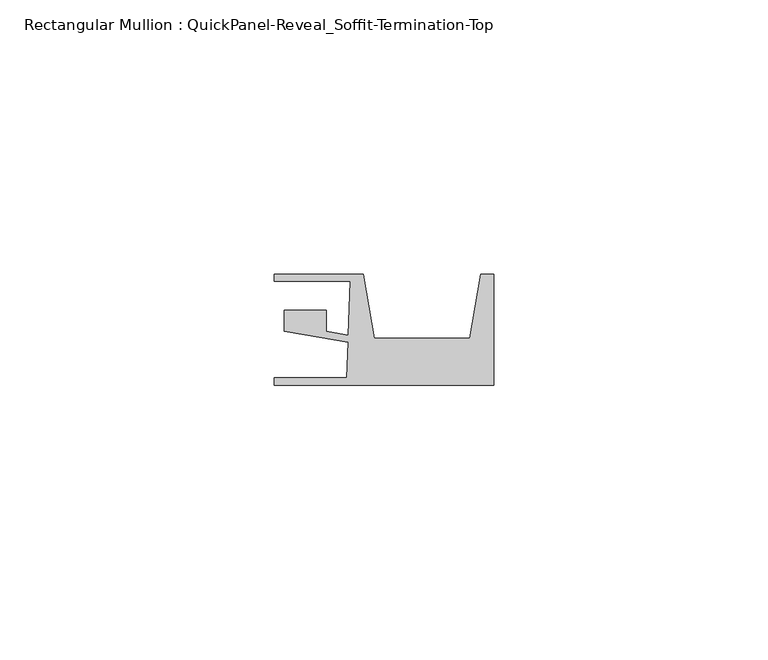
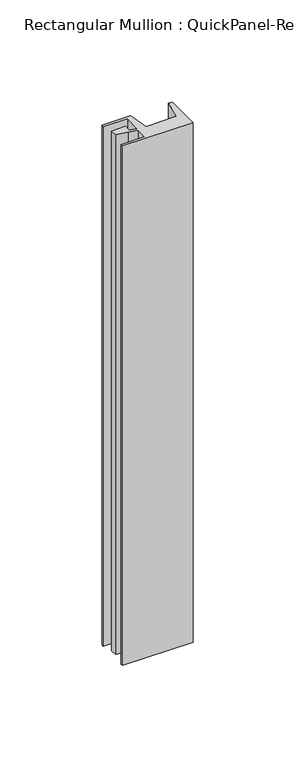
"""IFC4 building model written with IfcOpenShell, lengths in millimetres: member geometry, Rectangular Mullion : QuickPanel-Reveal_Soffit-Termination-Top."""

from ifc_helpers import new_model, si_unit, frame, origin, place, context, project, spatial, polyline, outline, extrude, source, transform, mapped, element, save


def rectangular_mullion_quickpanel_reveal_soffit_termination_top_86d96742(model_context):
    return source(origin(), model_context, "Body", "SweptSolid", [
        extrude(outline(polyline([(-40.0272216, -8.095605), (-40.0272216, -6.6935423), (-26.7863089, -6.6935423), (-26.5595237, -0.1992641), (-31.8098046, 0.7008023), (-38.2451373, 1.8040245), (-38.2451373, 5.6493034), (-30.5003642, 5.6493034), (-30.5003642, 1.7648465), (-26.5147952, 1.0815922), (-26.1708682, 10.9303752), (-40.0272216, 10.9303752), (-40.0272216, 12.1803727), (-23.8142192, 12.1803727), (-21.8189903, 0.5417732), (-4.3518779, 0.5417732), (-2.3566489, 12.1803727), (0.0, 12.1803727), (0.0, -8.095605), (-40.0272216, -8.095605)])), frame((0.0, 0.0, -311.0914708), z_axis=(0.0, 0.0, 1.0), x_axis=(1.0, 0.0, 0.0)), (0.0, 0.0, 1.0), 311.0914708),
    ])


if __name__ == "__main__":
    model = new_model("IFC4")
    model_context = context("Model", 3, world=origin())
    ifc_project = project(units=[si_unit("LENGTHUNIT", "METRE", prefix="MILLI")], contexts=[model_context])
    site = spatial("IfcSite", under=ifc_project)
    building = spatial("IfcBuilding", under=site)
    placement = place(None, origin())
    rectangular_mullion_quickpanel_reveal_soffit_termination_top_shape = rectangular_mullion_quickpanel_reveal_soffit_termination_top_86d96742(model_context)
    element("IfcMember", 1, ObjectType="Rectangular Mullion : QuickPanel-Reveal_Soffit-Termination-Top", at=placement, inside=building, context=model_context, shape_type="MappedRepresentation", body=[
        mapped(rectangular_mullion_quickpanel_reveal_soffit_termination_top_shape, transform((0.0, 0.0, 0.0), x_axis=(1.0, 0.0, 0.0), y_axis=(0.0, 1.0, 0.0), z_axis=(0.0, 0.0, 1.0))),
    ])
    save(model, "model.ifc")
